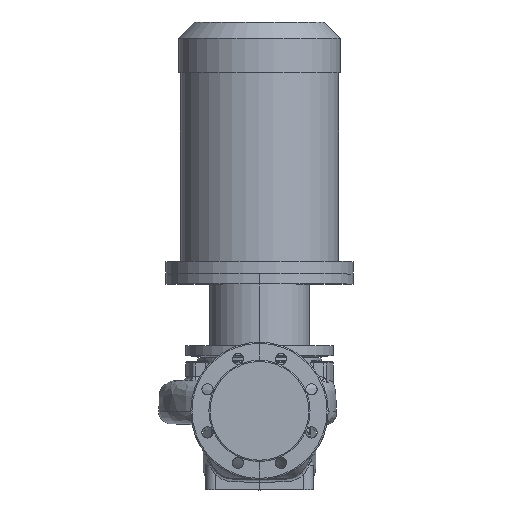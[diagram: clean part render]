
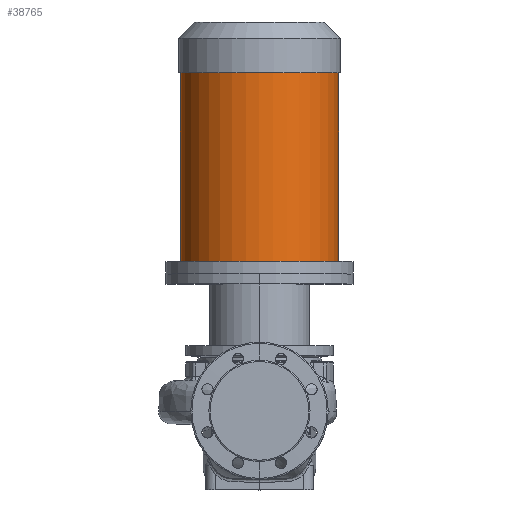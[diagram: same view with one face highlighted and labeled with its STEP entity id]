
A CAD part, top view. The second image highlights one B-rep face of the part: STEP entity #38765.
In plain terms, the highlighted cylindrical face has radius 126.5 mm (diameter 253 mm), a partial arc.
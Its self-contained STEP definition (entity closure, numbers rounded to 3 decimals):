
#436 = CARTESIAN_POINT ( 'NONE',  ( 126.5, 219.3, 0. ) ) ;
#2608 = CYLINDRICAL_SURFACE ( 'NONE', #18189, 126.5 ) ;
#5331 = FACE_OUTER_BOUND ( 'NONE', #36368, .T. ) ;
#5486 = AXIS2_PLACEMENT_3D ( 'NONE', #49810, #45230, #36845 ) ;
#5912 = AXIS2_PLACEMENT_3D ( 'NONE', #19603, #15565, #24187 ) ;
#7704 = CARTESIAN_POINT ( 'NONE',  ( 0., 219.3, 0. ) ) ;
#8014 = ORIENTED_EDGE ( 'NONE', *, *, #52640, .F. ) ;
#11343 = DIRECTION ( 'NONE',  ( 0., -1., 0. ) ) ;
#14773 = CIRCLE ( 'NONE', #5486, 126.5 ) ;
#15565 = DIRECTION ( 'NONE',  ( 0., -1., 0. ) ) ;
#15948 = VECTOR ( 'NONE', #55283, 1000. ) ;
#17492 = VERTEX_POINT ( 'NONE', #44415 ) ;
#18189 = AXIS2_PLACEMENT_3D ( 'NONE', #7704, #11343, #46210 ) ;
#19603 = CARTESIAN_POINT ( 'NONE',  ( 0., 541.3, 0. ) ) ;
#24187 = DIRECTION ( 'NONE',  ( -1., 0., 0. ) ) ;
#24892 = ORIENTED_EDGE ( 'NONE', *, *, #39852, .T. ) ;
#30583 = CARTESIAN_POINT ( 'NONE',  ( 126.5, 239.3, 0. ) ) ;
#30905 = DIRECTION ( 'NONE',  ( 0., -1., 0. ) ) ;
#32232 = CARTESIAN_POINT ( 'NONE',  ( -126.5, 219.3, 0. ) ) ;
#33974 = CARTESIAN_POINT ( 'NONE',  ( -126.5, 239.3, 0. ) ) ;
#34713 = VECTOR ( 'NONE', #30905, 1000. ) ;
#36319 = ORIENTED_EDGE ( 'NONE', *, *, #42440, .F. ) ;
#36368 = EDGE_LOOP ( 'NONE', ( #36319, #24892, #55117, #8014 ) ) ;
#36845 = DIRECTION ( 'NONE',  ( -1., 0., 0. ) ) ;
#37909 = CIRCLE ( 'NONE', #5912, 126.5 ) ;
#38198 = VERTEX_POINT ( 'NONE', #30583 ) ;
#38765 = ADVANCED_FACE ( 'NONE', ( #5331 ), #2608, .T. ) ;
#39852 = EDGE_CURVE ( 'NONE', #43997, #17492, #37909, .T. ) ;
#42440 = EDGE_CURVE ( 'NONE', #43997, #38198, #46342, .T. ) ;
#43997 = VERTEX_POINT ( 'NONE', #46820 ) ;
#44415 = CARTESIAN_POINT ( 'NONE',  ( -126.5, 541.3, 0. ) ) ;
#45230 = DIRECTION ( 'NONE',  ( 0., -1., 0. ) ) ;
#46165 = EDGE_CURVE ( 'NONE', #17492, #55862, #56240, .T. ) ;
#46210 = DIRECTION ( 'NONE',  ( -1., 0., 0. ) ) ;
#46342 = LINE ( 'NONE', #436, #34713 ) ;
#46820 = CARTESIAN_POINT ( 'NONE',  ( 126.5, 541.3, 0. ) ) ;
#49810 = CARTESIAN_POINT ( 'NONE',  ( 0., 239.3, 0. ) ) ;
#52640 = EDGE_CURVE ( 'NONE', #38198, #55862, #14773, .T. ) ;
#55117 = ORIENTED_EDGE ( 'NONE', *, *, #46165, .T. ) ;
#55283 = DIRECTION ( 'NONE',  ( 0., -1., 0. ) ) ;
#55862 = VERTEX_POINT ( 'NONE', #33974 ) ;
#56240 = LINE ( 'NONE', #32232, #15948 ) ;
